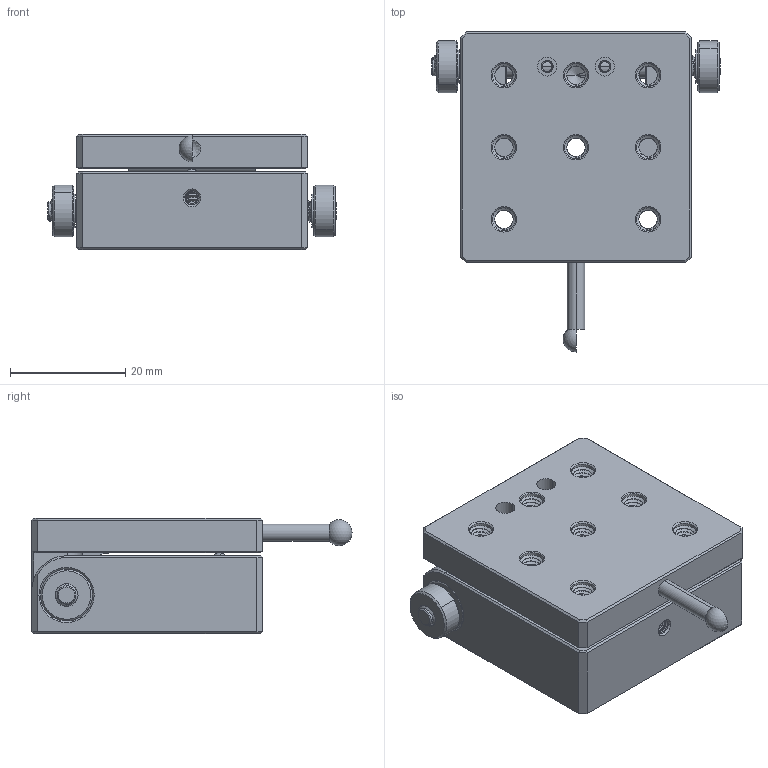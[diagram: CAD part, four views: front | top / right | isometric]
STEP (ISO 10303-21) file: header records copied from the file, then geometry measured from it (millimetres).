
FILE_DESCRIPTION((''),'2;1');
FILE_NAME('FM40-A_ASM','2020-10-19T',('Administrator'),(''),'CREO PARAMETRIC BY PTC INC, 2015290','CREO PARAMETRIC BY PTC INC, 2015290','');
FILE_SCHEMA(('CONFIG_CONTROL_DESIGN'));
Products named in the file (11): FM40-A_A1; FM40-A_A2; FM40-A_A3; M4X10_HSB; FM40-A_A4; FM40-A_A5; FM40-A_A6; SPRING_5X20; 684ZZ; SPACER_4X2; FM40-A_ASM
Assembly tree (13 placements, depth 2):
  FM40-A_ASM
    FM40-A_A1
    FM40-A_A2
    FM40-A_A3
    M4X10_HSB
    FM40-A_A4  x2
    FM40-A_A5
    FM40-A_A6
    SPRING_5X20  x2
    684ZZ  x2
    SPACER_4X2
Bounding box: 50 x 55.5 x 20 mm (x, y, z)
Volume: 27433.6 mm3; surface area: 15950.4 mm2
Topology: 13 solids, 14 shells, 958 faces, 2525 edges, 1593 vertices
Faces by surface type: cylinder 475, bspline 227, plane 130, cone 94, torus 24, sphere 8
Entity records: 62583 total; most frequent: CARTESIAN_POINT 42663, ORIENTED_EDGE 4742, DIRECTION 3024, EDGE_CURVE 2371, VERTEX_POINT 1512, B_SPLINE_CURVE_WITH_KNOTS 1113, AXIS2_PLACEMENT_3D 1054, EDGE_LOOP 955
